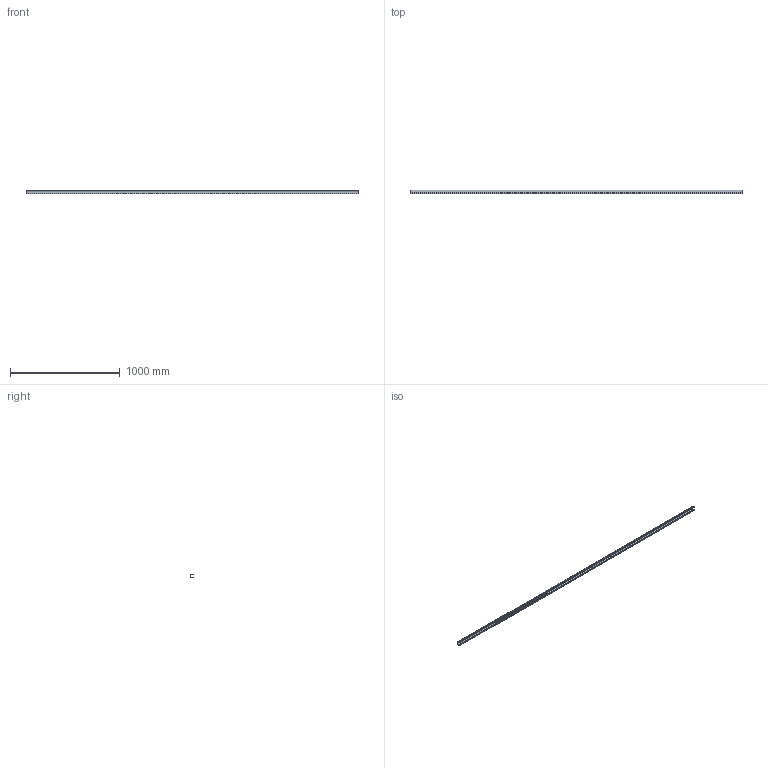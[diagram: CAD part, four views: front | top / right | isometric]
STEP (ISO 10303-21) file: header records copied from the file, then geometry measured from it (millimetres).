
FILE_DESCRIPTION (( 'STEP AP203' ), '1' );
FILE_NAME ('3535 Cover Round.STEP', '2026-04-20T12:28:24', ( '' ), ( '' ), 'SwSTEP 2.0', 'SolidWorks 2025', '' );
FILE_SCHEMA (( 'CONFIG_CONTROL_DESIGN' ));
Length unit declared in the file: millimetre
Products named in the file (1): 3535 Cover Round
Bounding box: 3020 x 32.64 x 35.17 mm (x, y, z)
Volume: 333016.9 mm3; surface area: 525233.2 mm2
Topology: 1 solids, 1 shells, 40 faces, 114 edges, 76 vertices
Faces by surface type: cylinder 22, plane 18
Entity records: 1399 total; most frequent: DIRECTION 240, CARTESIAN_POINT 231, ORIENTED_EDGE 228, EDGE_CURVE 114, AXIS2_PLACEMENT_3D 85, VERTEX_POINT 76, LINE 70, VECTOR 70
